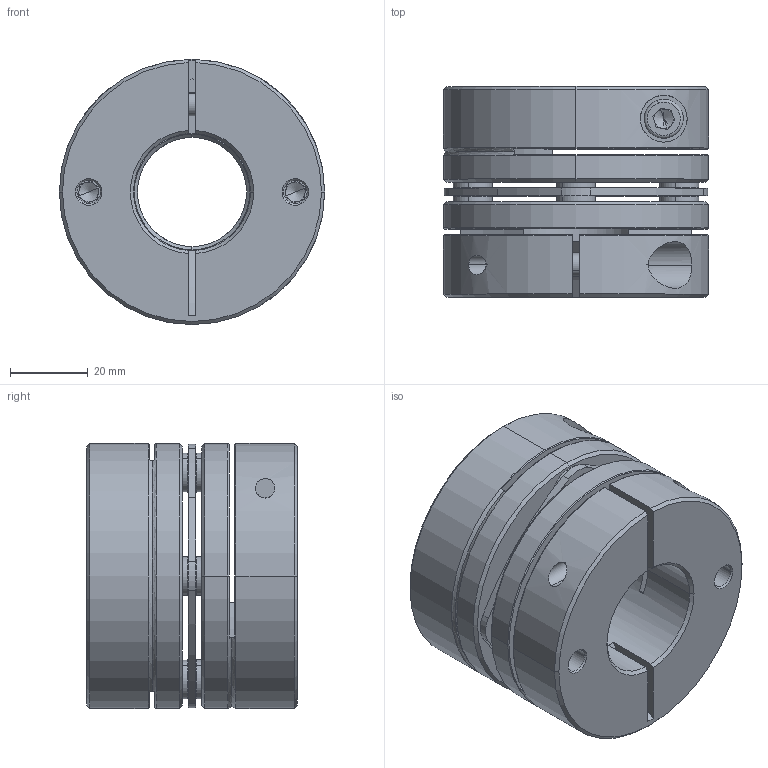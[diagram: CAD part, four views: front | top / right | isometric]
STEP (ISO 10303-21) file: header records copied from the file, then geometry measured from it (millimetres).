
FILE_DESCRIPTION (( 'STEP AP203' ), '1' );
FILE_NAME ('LD1-D68-28-30.STEP', '2021-10-26T08:03:06', ( '' ), ( '' ), 'SwSTEP 2.0', 'SolidWorks 2018', '' );
FILE_SCHEMA (( 'CONFIG_CONTROL_DESIGN' ));
Length unit declared in the file: millimetre
Products named in the file (2): 錨璃101^LD1-D68; LD1-D68-28-30
Assembly tree (1 placements, depth 2):
  LD1-D68-28-30
    錨璃101^LD1-D68
Bounding box: 68 x 54 x 68 mm (x, y, z)
Volume: 135184.8 mm3; surface area: 45319.5 mm2
Topology: 1 solids, 15 shells, 441 faces, 1047 edges, 642 vertices
Faces by surface type: cylinder 161, plane 136, cone 122, torus 22
Entity records: 13321 total; most frequent: CARTESIAN_POINT 2590, DIRECTION 2405, ORIENTED_EDGE 2062, EDGE_CURVE 1031, AXIS2_PLACEMENT_3D 977, VERTEX_POINT 642, CIRCLE 532, EDGE_LOOP 521
